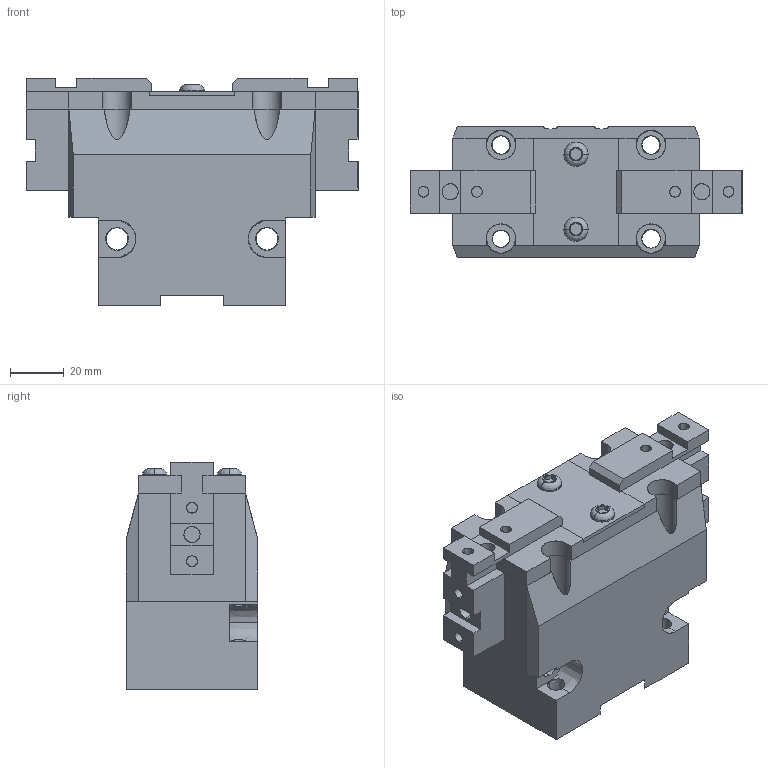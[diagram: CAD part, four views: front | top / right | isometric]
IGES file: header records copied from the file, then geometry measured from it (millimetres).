
Global section: file name: C:\Documents and Settings\Administrateur\Mes documents\OPE-95-X-OPEN.igs; native system: AutoCAD-16.0s (LMS Tech) (Microsoft Windows NT Version 5.1 (x86)); preprocessor: Autodesk IGES Translator Mechanical Desktop.R7.0.43.0 (Mar 18 2003) from Autodesk, Inc.; date: 20050629.074418; units: millimetre
Bounding box: 124 x 49 x 85 mm (x, y, z)
Surface area: 70098.4 mm2 (no closed solid volume)
Topology: 0 solids, 0 shells, 267 faces, 2555 edges, 2653 vertices
Faces by surface type: bspline 267
